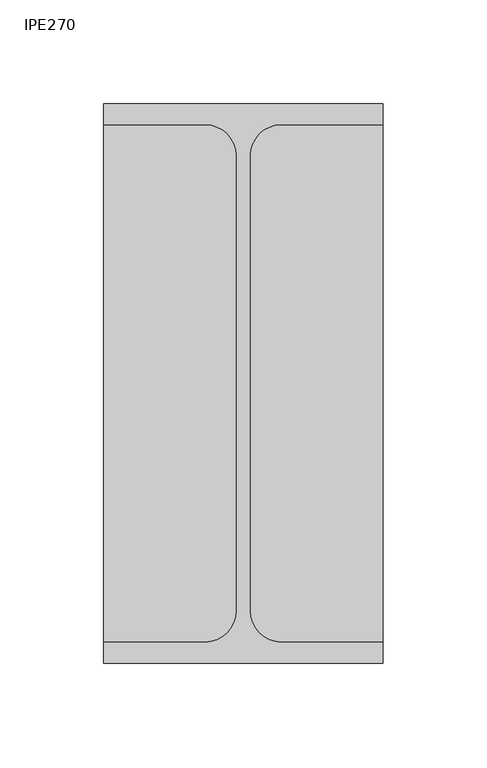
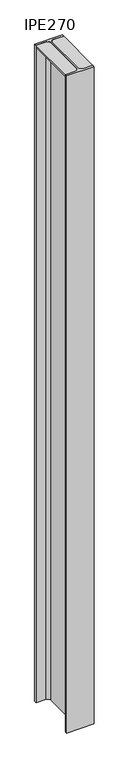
"""IFC4 building model written with IfcOpenShell, lengths in millimetres: column geometry, Poteau IPEavec plaque : IPE270."""

from ifc_helpers import new_model, si_unit, point, frame, frame_2d, origin, place, context, project, spatial, polyline, circle_curve, trimmed, segment, composite_curve, outline, extrude, source, transform, mapped, element, save


def ipe270_8f180465(model_context):
    return source(origin(), model_context, "Body", "SweptSolid", [
        extrude(outline(composite_curve([segment(polyline([(67.5, 135.0), (67.5, 124.8), (18.3, 124.8)]), True, "CONTINUOUS"), segment(trimmed(circle_curve(frame_2d((18.3, 109.8)), 15.0), [point((18.3, 124.8))], [point((3.3, 109.8))], True, "CARTESIAN"), True, "CONTINUOUS"), segment(polyline([(3.3, 109.8), (3.3, -109.8)]), True, "CONTINUOUS"), segment(trimmed(circle_curve(frame_2d((18.3, -109.8)), 15.0), [point((3.3, -109.8))], [point((18.3, -124.8))], True, "CARTESIAN"), True, "CONTINUOUS"), segment(polyline([(18.3, -124.8), (67.5, -124.8), (67.5, -135.0), (-67.5, -135.0), (-67.5, -124.8), (-18.3, -124.8)]), True, "CONTINUOUS"), segment(trimmed(circle_curve(frame_2d((-18.3, -109.8)), 15.0), [point((-18.3, -124.8))], [point((-3.3, -109.8))], True, "CARTESIAN"), True, "CONTINUOUS"), segment(polyline([(-3.3, -109.8), (-3.3, 109.8)]), True, "CONTINUOUS"), segment(trimmed(circle_curve(frame_2d((-18.3, 109.8)), 15.0), [point((-3.3, 109.8))], [point((-18.3, 124.8))], True, "CARTESIAN"), True, "CONTINUOUS"), segment(polyline([(-18.3, 124.8), (-67.5, 124.8), (-67.5, 135.0), (67.5, 135.0)]), True, "CONTINUOUS")], self_intersect=False)), frame((0.0, 0.0, -400.0), z_axis=(0.0, 0.0, 1.0), x_axis=(1.0, 0.0, 0.0)), (0.0, 0.0, 1.0), 3400.0),
        extrude(outline(polyline([(67.5, 135.0), (67.5, -135.0), (-67.5, -135.0), (-67.5, 135.0), (67.5, 135.0)])), frame((0.0, 0.0, 2990.0), z_axis=(0.0, 0.0, 1.0), x_axis=(1.0, 0.0, 0.0)), (0.0, 0.0, 1.0), 10.0),
    ])


if __name__ == "__main__":
    model = new_model("IFC4")
    model_context = context("Model", 3, world=origin())
    ifc_project = project(units=[si_unit("LENGTHUNIT", "METRE", prefix="MILLI")], contexts=[model_context])
    site = spatial("IfcSite", under=ifc_project)
    building = spatial("IfcBuilding", under=site)
    placement = place(None, origin())
    ipe270_shape = ipe270_8f180465(model_context)
    element("IfcColumn", 1, ObjectType="Poteau IPEavec plaque : IPE270", at=placement, inside=building, context=model_context, shape_type="MappedRepresentation", body=[
        mapped(ipe270_shape, transform((0.0, 0.0, 0.0), x_axis=(1.0, 0.0, 0.0), y_axis=(0.0, 1.0, 0.0), z_axis=(0.0, 0.0, 1.0))),
    ])
    save(model, "model.ifc")
